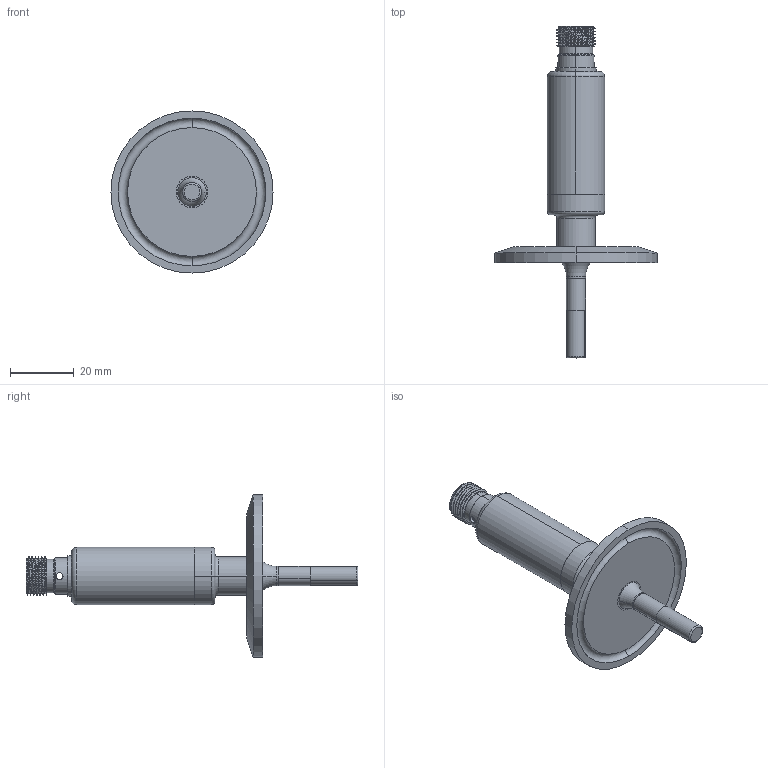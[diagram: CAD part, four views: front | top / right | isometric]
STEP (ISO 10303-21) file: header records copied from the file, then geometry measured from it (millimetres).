
FILE_DESCRIPTION (( 'STEP AP203' ), '1' );
FILE_NAME ('縐攫50.5TA恲僅L30蚾饜极.STEP', '2026-03-03T06:38:04', ( '' ), ( '' ), 'SwSTEP 2.0', 'SolidWorks 2022', '' );
FILE_SCHEMA (( 'CONFIG_CONTROL_DESIGN' ));
Length unit declared in the file: millimetre
Products named in the file (7): 縐攫50.5TA恲僅L30蚾饜极; 抻芛奪酗僅15; 褲极; 卡盘和壳体连接件; 瑤脣釱褲; 50.5縐攫; 抻芛晊酗奪15
Assembly tree (6 placements, depth 2):
  縐攫50.5TA恲僅L30蚾饜极
    50.5縐攫
    卡盘和壳体连接件
    抻芛晊酗奪15
    褲极
    瑤脣釱褲
    抻芛奪酗僅15
Bounding box: 51 x 104.4 x 51 mm (x, y, z)
Volume: 12097.2 mm3; surface area: 13841 mm2
Topology: 6 solids, 6 shells, 128 faces, 275 edges, 174 vertices
Faces by surface type: cylinder 68, plane 29, torus 20, cone 8, bspline 3
Entity records: 5589 total; most frequent: CARTESIAN_POINT 2031, DIRECTION 650, ORIENTED_EDGE 550, AXIS2_PLACEMENT_3D 286, EDGE_CURVE 275, VERTEX_POINT 174, EDGE_LOOP 157, CIRCLE 152
